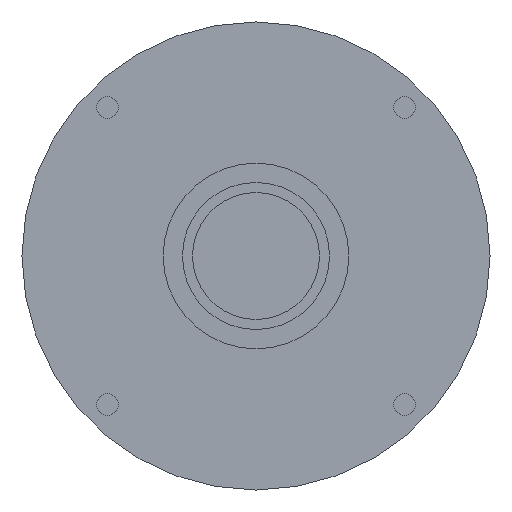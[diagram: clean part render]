
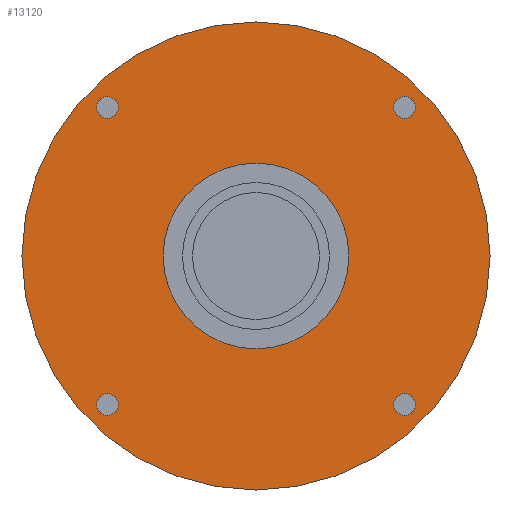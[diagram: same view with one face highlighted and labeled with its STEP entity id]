
A CAD part, left-side view. The second image highlights one B-rep face of the part: STEP entity #13120.
In plain terms, the highlighted planar face has unit normal (-1, 0, 0) as drawn and (0, 0, -1) by its records, which use the part's own axes.
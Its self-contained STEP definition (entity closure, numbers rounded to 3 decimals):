
#10060=CARTESIAN_POINT('',(-70.,0.,-84.701));
#10070=VERTEX_POINT('',#10060);
#10100=CARTESIAN_POINT('',(0.,0.,
-84.701));
#10110=DIRECTION('',(0.,0.,-1.));
#10120=DIRECTION('',(0.,-1.,0.));
#10130=AXIS2_PLACEMENT_3D('',#10100,#10110,#10120);
#10140=CIRCLE('',#10130,70.);
#10150=CARTESIAN_POINT('',(70.,0.,-84.701));
#10160=VERTEX_POINT('',#10150);
#10170=EDGE_CURVE('',#10070,#10160,#10140,.T.);
#12100=CARTESIAN_POINT('',(-44.449,-41.199,-84.701))
;
#12110=VERTEX_POINT('',#12100);
#12140=CARTESIAN_POINT('',(-44.449,-44.449,-84.701))
;
#12150=DIRECTION('',(0.,0.,-1.));
#12160=DIRECTION('',(0.,-1.,0.));
#12170=AXIS2_PLACEMENT_3D('',#12140,#12150,#12160);
#12180=CIRCLE('',#12170,3.25);
#12190=CARTESIAN_POINT('',(-44.449,-47.699,-84.701))
;
#12200=VERTEX_POINT('',#12190);
#12210=EDGE_CURVE('',#12200,#12110,#12180,.T.);
#12330=CARTESIAN_POINT('',(0.,0.,
-84.701));
#12340=DIRECTION('',(0.,0.,-1.));
#12350=DIRECTION('',(1.,0.,0.));
#12360=AXIS2_PLACEMENT_3D('',#12330,#12340,#12350);
#12370=PLANE('',#12360);
#12380=CARTESIAN_POINT('',(44.449,44.449,-84.701));
#12390=DIRECTION('',(0.,0.,-1.));
#12400=DIRECTION('',(0.,1.,0.));
#12410=AXIS2_PLACEMENT_3D('',#12380,#12390,#12400);
#12420=CIRCLE('',#12410,3.25);
#12430=CARTESIAN_POINT('',(44.449,47.699,-84.701));
#12440=VERTEX_POINT('',#12430);
#12450=CARTESIAN_POINT('',(44.449,41.199,-84.701));
#12460=VERTEX_POINT('',#12450);
#12470=EDGE_CURVE('',#12440,#12460,#12420,.T.);
#12480=ORIENTED_EDGE('',*,*,#12470,.F.);
#12490=EDGE_CURVE('',#12460,#12440,#12420,.T.);
#12500=ORIENTED_EDGE('',*,*,#12490,.F.);
#12510=EDGE_LOOP('',(#12500,#12480));
#12520=FACE_BOUND('',#12510,.T.);
#12530=CARTESIAN_POINT('',(-44.449,44.449,-84.701));
#12540=DIRECTION('',(0.,0.,-1.));
#12550=DIRECTION('',(-1.,0.,0.));
#12560=AXIS2_PLACEMENT_3D('',#12530,#12540,#12550);
#12570=CIRCLE('',#12560,3.25);
#12580=CARTESIAN_POINT('',(-47.699,44.449,-84.701));
#12590=VERTEX_POINT('',#12580);
#12600=CARTESIAN_POINT('',(-41.199,44.449,-84.701));
#12610=VERTEX_POINT('',#12600);
#12620=EDGE_CURVE('',#12590,#12610,#12570,.T.);
#12630=ORIENTED_EDGE('',*,*,#12620,.F.);
#12640=EDGE_CURVE('',#12610,#12590,#12570,.T.);
#12650=ORIENTED_EDGE('',*,*,#12640,.F.);
#12660=EDGE_LOOP('',(#12650,#12630));
#12670=FACE_BOUND('',#12660,.T.);
#12680=ORIENTED_EDGE('',*,*,#12210,.F.);
#12690=EDGE_CURVE('',#12110,#12200,#12180,.T.);
#12700=ORIENTED_EDGE('',*,*,#12690,.F.);
#12710=EDGE_LOOP('',(#12700,#12680));
#12720=FACE_BOUND('',#12710,.T.);
#12730=CARTESIAN_POINT('',(0.,0.,
-84.701));
#12740=DIRECTION('',(0.,0.,-1.));
#12750=DIRECTION('',(0.,1.,0.));
#12760=AXIS2_PLACEMENT_3D('',#12730,#12740,#12750);
#12770=CIRCLE('',#12760,27.76);
#12780=CARTESIAN_POINT('',(0.,27.76,-84.701));
#12790=VERTEX_POINT('',#12780);
#12800=CARTESIAN_POINT('',(0.,-27.76,-84.701));
#12810=VERTEX_POINT('',#12800);
#12820=EDGE_CURVE('',#12790,#12810,#12770,.T.);
#12830=ORIENTED_EDGE('',*,*,#12820,.F.);
#12840=EDGE_CURVE('',#12810,#12790,#12770,.T.);
#12850=ORIENTED_EDGE('',*,*,#12840,.F.);
#12860=EDGE_LOOP('',(#12850,#12830));
#12870=FACE_BOUND('',#12860,.T.);
#12880=CARTESIAN_POINT('',(44.449,-44.449,-84.701));
#12890=DIRECTION('',(0.,0.,-1.));
#12900=DIRECTION('',(1.,0.,0.));
#12910=AXIS2_PLACEMENT_3D('',#12880,#12890,#12900);
#12920=CIRCLE('',#12910,3.25);
#12930=CARTESIAN_POINT('',(47.699,-44.449,-84.701));
#12940=VERTEX_POINT('',#12930);
#12950=CARTESIAN_POINT('',(41.199,-44.449,-84.701));
#12960=VERTEX_POINT('',#12950);
#12970=EDGE_CURVE('',#12940,#12960,#12920,.T.);
#12980=ORIENTED_EDGE('',*,*,#12970,.F.);
#12990=EDGE_CURVE('',#12960,#12940,#12920,.T.);
#13000=ORIENTED_EDGE('',*,*,#12990,.F.);
#13010=EDGE_LOOP('',(#13000,#12980));
#13020=FACE_BOUND('',#13010,.T.);
#13030=ORIENTED_EDGE('',*,*,#10170,.T.);
#13040=CARTESIAN_POINT('',(0.,-70.,-84.701));
#13050=VERTEX_POINT('',#13040);
#13060=EDGE_CURVE('',#13050,#10070,#10140,.T.);
#13070=ORIENTED_EDGE('',*,*,#13060,.T.);
#13080=EDGE_CURVE('',#10160,#13050,#10140,.T.);
#13090=ORIENTED_EDGE('',*,*,#13080,.T.);
#13100=EDGE_LOOP('',(#13090,#13070,#13030));
#13110=FACE_OUTER_BOUND('',#13100,.T.);
#13120=ADVANCED_FACE('',(#12520,#12670,#12720,#12870,#13020,#13110),
#12370,.T.);
